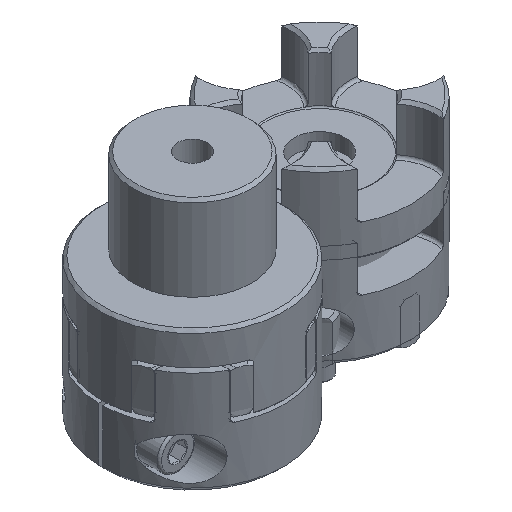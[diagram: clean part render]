
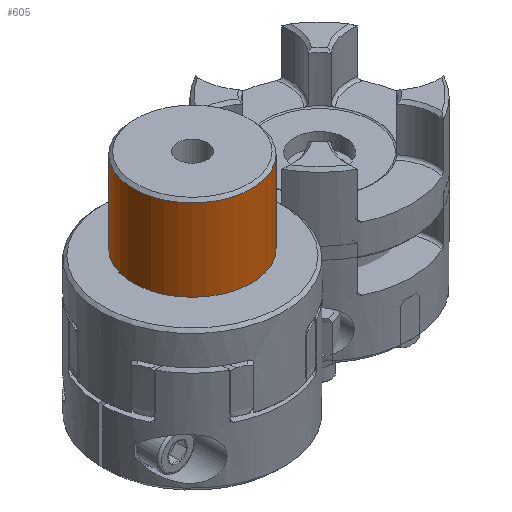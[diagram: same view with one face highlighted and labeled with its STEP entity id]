
A CAD part, isometric view. The second image highlights one B-rep face of the part: STEP entity #605.
In plain terms, the highlighted cylindrical face has radius 21 mm (diameter 42 mm), a full revolution.
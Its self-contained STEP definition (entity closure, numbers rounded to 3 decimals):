
#605 = ADVANCED_FACE( '', ( #1249, #1250 ), #1251, .T. );
#1249 = FACE_OUTER_BOUND( '', #1799, .T. );
#1250 = FACE_OUTER_BOUND( '', #1800, .T. );
#1251 = CYLINDRICAL_SURFACE( '', #1801, 21. );
#1799 = EDGE_LOOP( '', ( #3529 ) );
#1800 = EDGE_LOOP( '', ( #3530 ) );
#1801 = AXIS2_PLACEMENT_3D( '', #3531, #3532, #3533 );
#3529 = ORIENTED_EDGE( '', *, *, #4267, .T. );
#3530 = ORIENTED_EDGE( '', *, *, #4269, .T. );
#3531 = CARTESIAN_POINT( '', ( 0., 0., -57. ) );
#3532 = DIRECTION( '', ( 0., 0., 1. ) );
#3533 = DIRECTION( '', ( -1., 0., 0. ) );
#4267 = EDGE_CURVE( '', #5187, #5187, #5188, .F. );
#4269 = EDGE_CURVE( '', #5191, #5191, #5192, .T. );
#5187 = VERTEX_POINT( '', #6976 );
#5188 = CIRCLE( '', #6977, 21. );
#5191 = VERTEX_POINT( '', #6980 );
#5192 = CIRCLE( '', #6981, 21. );
#6976 = CARTESIAN_POINT( '', ( -21., 0., 1. ) );
#6977 = AXIS2_PLACEMENT_3D( '', #7889, #7890, #7891 );
#6980 = CARTESIAN_POINT( '', ( -21., 0., 30. ) );
#6981 = AXIS2_PLACEMENT_3D( '', #7895, #7896, #7897 );
#7889 = CARTESIAN_POINT( '', ( 0., 0., 1. ) );
#7890 = DIRECTION( '', ( 0., 0., -1. ) );
#7891 = DIRECTION( '', ( -1., 0., 0. ) );
#7895 = CARTESIAN_POINT( '', ( 0., 0., 30. ) );
#7896 = DIRECTION( '', ( 0., 0., -1. ) );
#7897 = DIRECTION( '', ( -1., 0., 0. ) );
